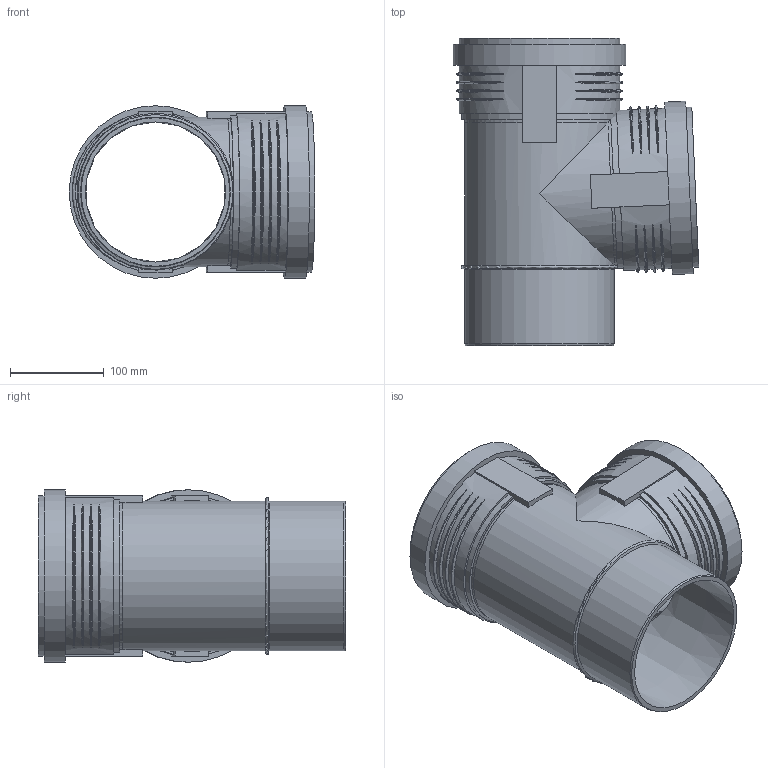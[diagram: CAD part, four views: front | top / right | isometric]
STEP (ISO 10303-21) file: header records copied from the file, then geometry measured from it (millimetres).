
FILE_DESCRIPTION(/* description */ (''),/* implementation_level */ '2;1');
FILE_NAME(/* name */ 'Z:\Geberit\Export\NewStep\390753.stp',/* time_stamp */ '2014-04-02T08:16:59+02:00',/* author */ ('ML'),/* organization */ (''),/* preprocessor_version */ 'ST-DEVELOPER v15.2',/* originating_system */ 'Autodesk Inventor 2014',/* authorisation */ '');
FILE_SCHEMA (('AUTOMOTIVE_DESIGN { 1 0 10303 214 3 1 1 }'));
Length unit declared in the file: millimetre
Products named in the file (4): 861616; 861560; 861560_1; 390753
Bounding box: 262.59 x 328.6 x 184.5 mm (x, y, z)
Volume: 1094594.7 mm3; surface area: 479544.6 mm2
Topology: 3 solids, 3 shells, 130 faces, 326 edges, 225 vertices
Faces by surface type: torus 50, plane 39, cylinder 32, cone 9
Full cylindrical faces by diameter (mm): 150.65 x2, 160.25 x2, 161.7 x4, 171.3 x2, 174.9 x2, 184.5 x2
Entity records: 5439 total; most frequent: CARTESIAN_POINT 2316, ORIENTED_EDGE 596, DIRECTION 576, EDGE_CURVE 298, AXIS2_PLACEMENT_3D 250, VERTEX_POINT 220, EDGE_LOOP 180, ADVANCED_FACE 129
